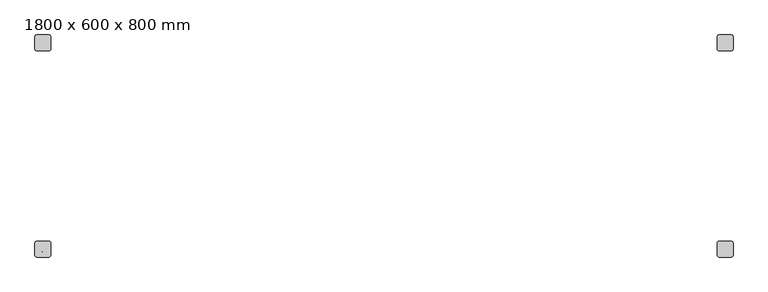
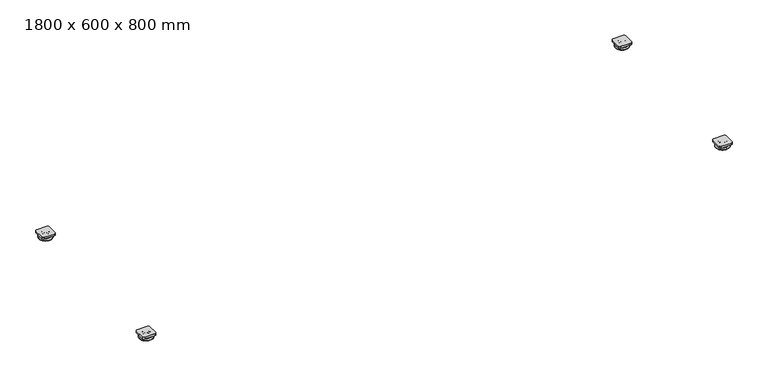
"""IFC4 building model written with IfcOpenShell, lengths in millimetres: furniture geometry, Table d'examen : 1800 x 600 x 800 mm."""

from ifc_helpers import new_model, si_unit, point, frame, frame_2d, origin, place, context, project, spatial, polyline, circle_curve, ellipse_curve, trimmed, segment, composite_curve, outline, extrude, source, transform, mapped, element, save
from ifc_brep_helpers import plane_surface, cylinder_surface, revolved_surface, advanced_brep


def furniture_1800_x_600_x_800_mm_032c7c21(model_context):
    return source(origin(), model_context, "Body", "SolidModel", [
        extrude(outline(composite_curve([segment(trimmed(circle_curve(frame_2d((919.7003264, -55.0)), 5.0), [point((924.7003264, -55.0))], [point((919.7003264, -60.0))], False, "CARTESIAN"), True, "CONTINUOUS"), segment(polyline([(919.7003264, -60.0), (889.7003264, -60.0)]), True, "CONTINUOUS"), segment(trimmed(circle_curve(frame_2d((889.7003264, -55.0)), 5.0), [point((889.7003264, -60.0))], [point((884.7003264, -55.0))], False, "CARTESIAN"), True, "CONTINUOUS"), segment(polyline([(884.7003264, -55.0), (884.7003264, -25.0)]), True, "CONTINUOUS"), segment(trimmed(circle_curve(frame_2d((889.7003264, -25.0)), 5.0), [point((884.7003264, -25.0))], [point((889.7003264, -20.0))], False, "CARTESIAN"), True, "CONTINUOUS"), segment(polyline([(889.7003264, -20.0), (919.7003264, -20.0)]), True, "CONTINUOUS"), segment(trimmed(circle_curve(frame_2d((919.7003264, -25.0)), 5.0), [point((919.7003264, -20.0))], [point((924.7003264, -25.0))], False, "CARTESIAN"), True, "CONTINUOUS"), segment(polyline([(924.7003264, -25.0), (924.7003264, -55.0)]), True, "CONTINUOUS")], self_intersect=False)), frame((0.0, 0.0, 10.0), z_axis=(0.0, 0.0, 1.0), x_axis=(1.0, 0.0, 0.0)), (0.0, 0.0, 1.0), 5.0),
        advanced_brep(
        [(897.1873054, -40.0, 10.0), (912.2133474, -40.0, 10.0), (904.7003264, -40.0, 10.0), (897.1873054, -40.0, 8.8913128), (912.2133474, -40.0, 8.8913128), (895.5234516, -40.0, 6.908409), (913.8772013, -40.0, 6.908409), (887.5885787, -40.0, 5.5092768), (921.8120742, -40.0, 5.5092768), (884.7003264, -40.0, 2.0671918), (924.7003264, -40.0, 2.0671918), (884.7003264, -40.0, 0.0), (924.7003264, -40.0, 0.0), (904.7003264, -40.0, 0.0)],
        [
            (0, 1, circle_curve(frame((904.7003264, -40.0, 10.0), z_axis=(0.0, 0.0, 1.0), x_axis=(1.0, 0.0, 0.0)), 7.513021)),
            (1, 2),
            (2, 0),
            (1, 0, circle_curve(frame((904.7003264, -40.0, 10.0), z_axis=(0.0, 0.0, 1.0), x_axis=(1.0, 0.0, 0.0)), 7.513021)),
            (3, 4, circle_curve(frame((904.7003264, -40.0, 8.8913128), z_axis=(0.0, 0.0, 1.0), x_axis=(1.0, 0.0, 0.0)), 7.513021)),
            (4, 1),
            (0, 3),
            (4, 3, circle_curve(frame((904.7003264, -40.0, 8.8913128), z_axis=(0.0, 0.0, 1.0), x_axis=(1.0, 0.0, 0.0)), 7.513021)),
            (5, 6, circle_curve(frame((904.7003264, -40.0, 6.908409), z_axis=(0.0, 0.0, 1.0), x_axis=(1.0, 0.0, 0.0)), 9.1768748)),
            (6, 4, circle_curve(frame((914.2268407, -40.0, 8.8913128), z_axis=(0.0, 1.0, 0.0), x_axis=(-1.0, 0.0, 0.0)), 2.0134933)),
            (3, 5, circle_curve(frame((895.1738122, -40.0, 8.8913128), z_axis=(0.0, 1.0, 0.0), x_axis=(1.0, 0.0, 0.0)), 2.0134933)),
            (6, 5, circle_curve(frame((904.7003264, -40.0, 6.908409), z_axis=(0.0, 0.0, 1.0), x_axis=(1.0, 0.0, 0.0)), 9.1768748)),
            (7, 8, circle_curve(frame((904.7003264, -40.0, 5.5092768), z_axis=(0.0, 0.0, 1.0), x_axis=(1.0, 0.0, 0.0)), 17.1117477)),
            (8, 6),
            (5, 7),
            (8, 7, circle_curve(frame((904.7003264, -40.0, 5.5092768), z_axis=(0.0, 0.0, 1.0), x_axis=(1.0, 0.0, 0.0)), 17.1117477)),
            (9, 10, circle_curve(frame((904.7003264, -40.0, 2.0671918), z_axis=(0.0, 0.0, 1.0), x_axis=(1.0, 0.0, 0.0)), 20.0)),
            (10, 8, circle_curve(frame((921.2051417, -40.0, 2.0671918), z_axis=(0.0, -1.0, 0.0), x_axis=(-1.0, 0.0, 0.0)), 3.4951847)),
            (7, 9, circle_curve(frame((888.1955112, -40.0, 2.0671918), z_axis=(0.0, -1.0, 0.0), x_axis=(1.0, 0.0, 0.0)), 3.4951847)),
            (10, 9, circle_curve(frame((904.7003264, -40.0, 2.0671918), z_axis=(0.0, 0.0, 1.0), x_axis=(1.0, 0.0, 0.0)), 20.0)),
            (11, 12, circle_curve(frame((904.7003264, -40.0, 0.0), z_axis=(0.0, 0.0, 1.0), x_axis=(1.0, 0.0, 0.0)), 20.0)),
            (12, 10),
            (9, 11),
            (12, 11, circle_curve(frame((904.7003264, -40.0, 0.0), z_axis=(0.0, 0.0, 1.0), x_axis=(1.0, 0.0, 0.0)), 20.0)),
            (13, 12),
            (11, 13),
        ],
        [
            plane_surface(frame((904.7003264, -40.0, 10.0), z_axis=(0.0, 0.0, 1.0), x_axis=(1.0, 0.0, 0.0))),
            cylinder_surface(frame((904.7003264, -40.0, 21.1489635), z_axis=(0.0, 0.0, -1.0), x_axis=(1.0, 0.0, 0.0)), 7.513021),
            revolved_surface(trimmed(ellipse_curve(frame((914.2268407, -40.0, 8.8913128), z_axis=(0.0, -1.0, 0.0), x_axis=(-1.0, 0.0, 0.0)), 2.0134933, 2.0134933), [point((912.2133474, -40.0, 8.8913128))], [point((913.8772013, -40.0, 6.908409))], True, "CARTESIAN"), (904.7003264, -40.0, 21.1489635), (0.0, 0.0, -1.0)),
            revolved_surface(polyline([(913.8772013, -40.0, 6.908409), (921.8120742, -40.0, 5.5092768)]), (904.7003264, -40.0, 21.1489635), (0.0, 0.0, -1.0)),
            revolved_surface(trimmed(ellipse_curve(frame((921.2051417, -40.0, 2.0671918), z_axis=(0.0, 1.0, 0.0), x_axis=(-1.0, 0.0, 0.0)), 3.4951847, 3.4951847), [point((921.8120742, -40.0, 5.5092768))], [point((924.7003264, -40.0, 2.0671918))], True, "CARTESIAN"), (904.7003264, -40.0, 21.1489635), (0.0, 0.0, -1.0)),
            cylinder_surface(frame((904.7003264, -40.0, 21.1489635), z_axis=(0.0, 0.0, -1.0), x_axis=(1.0, 0.0, 0.0)), 20.0),
            plane_surface(frame((904.7003264, -40.0, 0.0), z_axis=(0.0, 0.0, -1.0), x_axis=(1.0, 0.0, 0.0))),
        ],
        [
            (0, [[1, 2, 3]]),
            (0, [[4, -3, -2]]),
            (1, [[5, 6, -1, 7]]),
            (1, [[8, -7, -4, -6]]),
            (2, [[9, 10, -5, 11]]),
            (2, [[12, -11, -8, -10]]),
            (3, [[13, 14, -9, 15]]),
            (3, [[16, -15, -12, -14]]),
            (4, [[17, 18, -13, 19]]),
            (4, [[20, -19, -16, -18]]),
            (5, [[21, 22, -17, 23]]),
            (5, [[24, -23, -20, -22]]),
            (6, [[25, -21, 26]]),
            (6, [[-26, -24, -25]]),
        ],
    ),
        extrude(outline(composite_curve([segment(trimmed(circle_curve(frame_2d((889.7003264, -575.0)), 5.0), [point((889.7003264, -580.0))], [point((884.7003264, -575.0))], False, "CARTESIAN"), True, "CONTINUOUS"), segment(polyline([(884.7003264, -575.0), (884.7003264, -545.0)]), True, "CONTINUOUS"), segment(trimmed(circle_curve(frame_2d((889.7003264, -545.0)), 5.0), [point((884.7003264, -545.0))], [point((889.7003264, -540.0))], False, "CARTESIAN"), True, "CONTINUOUS"), segment(polyline([(889.7003264, -540.0), (919.7003264, -540.0)]), True, "CONTINUOUS"), segment(trimmed(circle_curve(frame_2d((919.7003264, -545.0)), 5.0), [point((919.7003264, -540.0))], [point((924.7003264, -545.0))], False, "CARTESIAN"), True, "CONTINUOUS"), segment(polyline([(924.7003264, -545.0), (924.7003264, -575.0)]), True, "CONTINUOUS"), segment(trimmed(circle_curve(frame_2d((919.7003264, -575.0)), 5.0), [point((924.7003264, -575.0))], [point((919.7003264, -580.0))], False, "CARTESIAN"), True, "CONTINUOUS"), segment(polyline([(919.7003264, -580.0), (889.7003264, -580.0)]), True, "CONTINUOUS")], self_intersect=False)), frame((0.0, 0.0, 10.0), z_axis=(0.0, 0.0, 1.0), x_axis=(1.0, 0.0, 0.0)), (0.0, 0.0, 1.0), 5.0),
        advanced_brep(
        [(904.7003264, -552.486979, 10.0), (904.7003264, -567.513021, 10.0), (904.7003264, -560.0, 10.0), (904.7003264, -552.486979, 8.8913128), (904.7003264, -567.513021, 8.8913128), (904.7003264, -550.8231252, 6.908409), (904.7003264, -569.1768748, 6.908409), (904.7003264, -542.8882523, 5.5092768), (904.7003264, -577.1117477, 5.5092768), (904.7003264, -540.0, 2.0671918), (904.7003264, -580.0, 2.0671918), (904.7003264, -540.0, 0.0), (904.7003264, -580.0, 0.0), (904.7003264, -560.0, 0.0)],
        [
            (0, 1, circle_curve(frame((904.7003264, -560.0, 10.0), z_axis=(0.0, 0.0, 1.0), x_axis=(0.0, -1.0, 0.0)), 7.513021)),
            (1, 2),
            (2, 0),
            (1, 0, circle_curve(frame((904.7003264, -560.0, 10.0), z_axis=(0.0, 0.0, 1.0), x_axis=(0.0, -1.0, 0.0)), 7.513021)),
            (3, 4, circle_curve(frame((904.7003264, -560.0, 8.8913128), z_axis=(0.0, 0.0, 1.0), x_axis=(0.0, -1.0, 0.0)), 7.513021)),
            (4, 1),
            (0, 3),
            (4, 3, circle_curve(frame((904.7003264, -560.0, 8.8913128), z_axis=(0.0, 0.0, 1.0), x_axis=(0.0, -1.0, 0.0)), 7.513021)),
            (5, 6, circle_curve(frame((904.7003264, -560.0, 6.908409), z_axis=(0.0, 0.0, 1.0), x_axis=(0.0, -1.0, 0.0)), 9.1768748)),
            (6, 4, circle_curve(frame((904.7003264, -569.5265143, 8.8913128), z_axis=(1.0, 0.0, 0.0), x_axis=(0.0, 1.0, 0.0)), 2.0134933)),
            (3, 5, circle_curve(frame((904.7003264, -550.4734857, 8.8913128), z_axis=(1.0, 0.0, 0.0), x_axis=(0.0, -1.0, 0.0)), 2.0134933)),
            (6, 5, circle_curve(frame((904.7003264, -560.0, 6.908409), z_axis=(0.0, 0.0, 1.0), x_axis=(0.0, -1.0, 0.0)), 9.1768748)),
            (7, 8, circle_curve(frame((904.7003264, -560.0, 5.5092768), z_axis=(0.0, 0.0, 1.0), x_axis=(0.0, -1.0, 0.0)), 17.1117477)),
            (8, 6),
            (5, 7),
            (8, 7, circle_curve(frame((904.7003264, -560.0, 5.5092768), z_axis=(0.0, 0.0, 1.0), x_axis=(0.0, -1.0, 0.0)), 17.1117477)),
            (9, 10, circle_curve(frame((904.7003264, -560.0, 2.0671918), z_axis=(0.0, 0.0, 1.0), x_axis=(0.0, -1.0, 0.0)), 20.0)),
            (10, 8, circle_curve(frame((904.7003264, -576.5048153, 2.0671918), z_axis=(-1.0, 0.0, 0.0), x_axis=(0.0, 1.0, 0.0)), 3.4951847)),
            (7, 9, circle_curve(frame((904.7003264, -543.4951847, 2.0671918), z_axis=(-1.0, 0.0, 0.0), x_axis=(0.0, -1.0, 0.0)), 3.4951847)),
            (10, 9, circle_curve(frame((904.7003264, -560.0, 2.0671918), z_axis=(0.0, 0.0, 1.0), x_axis=(0.0, -1.0, 0.0)), 20.0)),
            (11, 12, circle_curve(frame((904.7003264, -560.0, 0.0), z_axis=(0.0, 0.0, 1.0), x_axis=(0.0, -1.0, 0.0)), 20.0)),
            (12, 10),
            (9, 11),
            (12, 11, circle_curve(frame((904.7003264, -560.0, 0.0), z_axis=(0.0, 0.0, 1.0), x_axis=(0.0, -1.0, 0.0)), 20.0)),
            (13, 12),
            (11, 13),
        ],
        [
            plane_surface(frame((904.7003264, -560.0, 10.0), z_axis=(0.0, 0.0, 1.0), x_axis=(0.0, -1.0, 0.0))),
            cylinder_surface(frame((904.7003264, -560.0, 21.1489635), z_axis=(0.0, 0.0, -1.0), x_axis=(0.0, -1.0, 0.0)), 7.513021),
            revolved_surface(trimmed(ellipse_curve(frame((904.7003264, -569.5265143, 8.8913128), z_axis=(-1.0, 0.0, 0.0), x_axis=(0.0, 1.0, 0.0)), 2.0134933, 2.0134933), [point((904.7003264, -567.513021, 8.8913128))], [point((904.7003264, -569.1768748, 6.908409))], True, "CARTESIAN"), (904.7003264, -560.0, 21.1489635), (0.0, 0.0, -1.0)),
            revolved_surface(polyline([(904.7003264, -569.1768748, 6.908409), (904.7003264, -577.1117477, 5.5092768)]), (904.7003264, -560.0, 21.1489635), (0.0, 0.0, -1.0)),
            revolved_surface(trimmed(ellipse_curve(frame((904.7003264, -576.5048153, 2.0671918), z_axis=(1.0, 0.0, 0.0), x_axis=(0.0, 1.0, 0.0)), 3.4951847, 3.4951847), [point((904.7003264, -577.1117477, 5.5092768))], [point((904.7003264, -580.0, 2.0671918))], True, "CARTESIAN"), (904.7003264, -560.0, 21.1489635), (0.0, 0.0, -1.0)),
            cylinder_surface(frame((904.7003264, -560.0, 21.1489635), z_axis=(0.0, 0.0, -1.0), x_axis=(0.0, -1.0, 0.0)), 20.0),
            plane_surface(frame((904.7003264, -560.0, 0.0), z_axis=(0.0, 0.0, -1.0), x_axis=(0.0, -1.0, 0.0))),
        ],
        [
            (0, [[1, 2, 3]]),
            (0, [[4, -3, -2]]),
            (1, [[5, 6, -1, 7]]),
            (1, [[8, -7, -4, -6]]),
            (2, [[9, 10, -5, 11]]),
            (2, [[12, -11, -8, -10]]),
            (3, [[13, 14, -9, 15]]),
            (3, [[16, -15, -12, -14]]),
            (4, [[17, 18, -13, 19]]),
            (4, [[20, -19, -16, -18]]),
            (5, [[21, 22, -17, 23]]),
            (5, [[24, -23, -20, -22]]),
            (6, [[25, -21, 26]]),
            (6, [[-26, -24, -25]]),
        ],
    ),
        extrude(outline(composite_curve([segment(trimmed(circle_curve(frame_2d((-830.2996736, -545.0)), 5.0), [point((-835.2996736, -545.0))], [point((-830.2996736, -540.0))], False, "CARTESIAN"), True, "CONTINUOUS"), segment(polyline([(-830.2996736, -540.0), (-800.2996736, -540.0)]), True, "CONTINUOUS"), segment(trimmed(circle_curve(frame_2d((-800.2996736, -545.0)), 5.0), [point((-800.2996736, -540.0))], [point((-795.2996736, -545.0))], False, "CARTESIAN"), True, "CONTINUOUS"), segment(polyline([(-795.2996736, -545.0), (-795.2996736, -575.0)]), True, "CONTINUOUS"), segment(trimmed(circle_curve(frame_2d((-800.2996736, -575.0)), 5.0), [point((-795.2996736, -575.0))], [point((-800.2996736, -580.0))], False, "CARTESIAN"), True, "CONTINUOUS"), segment(polyline([(-800.2996736, -580.0), (-830.2996736, -580.0)]), True, "CONTINUOUS"), segment(trimmed(circle_curve(frame_2d((-830.2996736, -575.0)), 5.0), [point((-830.2996736, -580.0))], [point((-835.2996736, -575.0))], False, "CARTESIAN"), True, "CONTINUOUS"), segment(polyline([(-835.2996736, -575.0), (-835.2996736, -545.0)]), True, "CONTINUOUS")], self_intersect=False)), frame((0.0, 0.0, 10.0), z_axis=(0.0, 0.0, 1.0), x_axis=(1.0, 0.0, 0.0)), (0.0, 0.0, 1.0), 5.0),
        advanced_brep(
        [(-807.7866526, -560.0, 10.0), (-822.8126946, -560.0, 10.0), (-815.2996736, -560.0, 10.0), (-807.7866526, -560.0, 8.8913128), (-822.8126946, -560.0, 8.8913128), (-806.1227987, -560.0, 6.908409), (-824.4765484, -560.0, 6.908409), (-798.1879258, -560.0, 5.5092768), (-832.4114213, -560.0, 5.5092768), (-795.2996736, -560.0, 2.0671918), (-835.2996736, -560.0, 2.0671918), (-795.2996736, -560.0, 0.0), (-835.2996736, -560.0, 0.0), (-815.2996736, -560.0, 0.0)],
        [
            (0, 1, circle_curve(frame((-815.2996736, -560.0, 10.0), z_axis=(0.0, 0.0, 1.0), x_axis=(-1.0, 0.0, 0.0)), 7.513021)),
            (1, 2),
            (2, 0),
            (1, 0, circle_curve(frame((-815.2996736, -560.0, 10.0), z_axis=(0.0, 0.0, 1.0), x_axis=(-1.0, 0.0, 0.0)), 7.513021)),
            (3, 4, circle_curve(frame((-815.2996736, -560.0, 8.8913128), z_axis=(0.0, 0.0, 1.0), x_axis=(-1.0, 0.0, 0.0)), 7.513021)),
            (4, 1),
            (0, 3),
            (4, 3, circle_curve(frame((-815.2996736, -560.0, 8.8913128), z_axis=(0.0, 0.0, 1.0), x_axis=(-1.0, 0.0, 0.0)), 7.513021)),
            (5, 6, circle_curve(frame((-815.2996736, -560.0, 6.908409), z_axis=(0.0, 0.0, 1.0), x_axis=(-1.0, 0.0, 0.0)), 9.1768748)),
            (6, 4, circle_curve(frame((-824.8261878, -560.0, 8.8913128), z_axis=(0.0, -1.0, 0.0), x_axis=(1.0, 0.0, 0.0)), 2.0134933)),
            (3, 5, circle_curve(frame((-805.7731593, -560.0, 8.8913128), z_axis=(0.0, -1.0, 0.0), x_axis=(-1.0, 0.0, 0.0)), 2.0134933)),
            (6, 5, circle_curve(frame((-815.2996736, -560.0, 6.908409), z_axis=(0.0, 0.0, 1.0), x_axis=(-1.0, 0.0, 0.0)), 9.1768748)),
            (7, 8, circle_curve(frame((-815.2996736, -560.0, 5.5092768), z_axis=(0.0, 0.0, 1.0), x_axis=(-1.0, 0.0, 0.0)), 17.1117477)),
            (8, 6),
            (5, 7),
            (8, 7, circle_curve(frame((-815.2996736, -560.0, 5.5092768), z_axis=(0.0, 0.0, 1.0), x_axis=(-1.0, 0.0, 0.0)), 17.1117477)),
            (9, 10, circle_curve(frame((-815.2996736, -560.0, 2.0671918), z_axis=(0.0, 0.0, 1.0), x_axis=(-1.0, 0.0, 0.0)), 20.0)),
            (10, 8, circle_curve(frame((-831.8044888, -560.0, 2.0671918), z_axis=(0.0, 1.0, 0.0), x_axis=(1.0, 0.0, 0.0)), 3.4951847)),
            (7, 9, circle_curve(frame((-798.7948583, -560.0, 2.0671918), z_axis=(0.0, 1.0, 0.0), x_axis=(-1.0, 0.0, 0.0)), 3.4951847)),
            (10, 9, circle_curve(frame((-815.2996736, -560.0, 2.0671918), z_axis=(0.0, 0.0, 1.0), x_axis=(-1.0, 0.0, 0.0)), 20.0)),
            (11, 12, circle_curve(frame((-815.2996736, -560.0, 0.0), z_axis=(0.0, 0.0, 1.0), x_axis=(-1.0, 0.0, 0.0)), 20.0)),
            (12, 10),
            (9, 11),
            (12, 11, circle_curve(frame((-815.2996736, -560.0, 0.0), z_axis=(0.0, 0.0, 1.0), x_axis=(-1.0, 0.0, 0.0)), 20.0)),
            (13, 12),
            (11, 13),
        ],
        [
            plane_surface(frame((-815.2996736, -560.0, 10.0), z_axis=(0.0, 0.0, 1.0), x_axis=(-1.0, 0.0, 0.0))),
            cylinder_surface(frame((-815.2996736, -560.0, 21.1489635), z_axis=(0.0, 0.0, -1.0), x_axis=(-1.0, 0.0, 0.0)), 7.513021),
            revolved_surface(trimmed(ellipse_curve(frame((-824.8261878, -560.0, 8.8913128), z_axis=(0.0, 1.0, 0.0), x_axis=(1.0, 0.0, 0.0)), 2.0134933, 2.0134933), [point((-822.8126946, -560.0, 8.8913128))], [point((-824.4765484, -560.0, 6.908409))], True, "CARTESIAN"), (-815.2996736, -560.0, 21.1489635), (0.0, 0.0, -1.0)),
            revolved_surface(polyline([(-824.4765484, -560.0, 6.908409), (-832.4114213, -560.0, 5.5092768)]), (-815.2996736, -560.0, 21.1489635), (0.0, 0.0, -1.0)),
            revolved_surface(trimmed(ellipse_curve(frame((-831.8044888, -560.0, 2.0671918), z_axis=(0.0, -1.0, 0.0), x_axis=(1.0, 0.0, 0.0)), 3.4951847, 3.4951847), [point((-832.4114213, -560.0, 5.5092768))], [point((-835.2996736, -560.0, 2.0671918))], True, "CARTESIAN"), (-815.2996736, -560.0, 21.1489635), (0.0, 0.0, -1.0)),
            cylinder_surface(frame((-815.2996736, -560.0, 21.1489635), z_axis=(0.0, 0.0, -1.0), x_axis=(-1.0, 0.0, 0.0)), 20.0),
            plane_surface(frame((-815.2996736, -560.0, 0.0), z_axis=(0.0, 0.0, -1.0), x_axis=(-1.0, 0.0, 0.0))),
        ],
        [
            (0, [[1, 2, 3]]),
            (0, [[4, -3, -2]]),
            (1, [[5, 6, -1, 7]]),
            (1, [[8, -7, -4, -6]]),
            (2, [[9, 10, -5, 11]]),
            (2, [[12, -11, -8, -10]]),
            (3, [[13, 14, -9, 15]]),
            (3, [[16, -15, -12, -14]]),
            (4, [[17, 18, -13, 19]]),
            (4, [[20, -19, -16, -18]]),
            (5, [[21, 22, -17, 23]]),
            (5, [[24, -23, -20, -22]]),
            (6, [[25, -21, 26]]),
            (6, [[-26, -24, -25]]),
        ],
    ),
        extrude(outline(composite_curve([segment(trimmed(circle_curve(frame_2d((-800.2996736, -55.0)), 5.0), [point((-795.2996736, -55.0))], [point((-800.2996736, -60.0))], False, "CARTESIAN"), True, "CONTINUOUS"), segment(polyline([(-800.2996736, -60.0), (-830.2996736, -60.0)]), True, "CONTINUOUS"), segment(trimmed(circle_curve(frame_2d((-830.2996736, -55.0)), 5.0), [point((-830.2996736, -60.0))], [point((-835.2996736, -55.0))], False, "CARTESIAN"), True, "CONTINUOUS"), segment(polyline([(-835.2996736, -55.0), (-835.2996736, -25.0)]), True, "CONTINUOUS"), segment(trimmed(circle_curve(frame_2d((-830.2996736, -25.0)), 5.0), [point((-835.2996736, -25.0))], [point((-830.2996736, -20.0))], False, "CARTESIAN"), True, "CONTINUOUS"), segment(polyline([(-830.2996736, -20.0), (-800.2996736, -20.0)]), True, "CONTINUOUS"), segment(trimmed(circle_curve(frame_2d((-800.2996736, -25.0)), 5.0), [point((-800.2996736, -20.0))], [point((-795.2996736, -25.0))], False, "CARTESIAN"), True, "CONTINUOUS"), segment(polyline([(-795.2996736, -25.0), (-795.2996736, -55.0)]), True, "CONTINUOUS")], self_intersect=False)), frame((0.0, 0.0, 10.0), z_axis=(0.0, 0.0, 1.0), x_axis=(1.0, 0.0, 0.0)), (0.0, 0.0, 1.0), 5.0),
        advanced_brep(
        [(-822.8126946, -40.0, 10.0), (-807.7866526, -40.0, 10.0), (-815.2996736, -40.0, 10.0), (-822.8126946, -40.0, 8.8913128), (-807.7866526, -40.0, 8.8913128), (-824.4765484, -40.0, 6.908409), (-806.1227987, -40.0, 6.908409), (-832.4114213, -40.0, 5.5092768), (-798.1879258, -40.0, 5.5092768), (-835.2996736, -40.0, 2.0671918), (-795.2996736, -40.0, 2.0671918), (-835.2996736, -40.0, 0.0), (-795.2996736, -40.0, 0.0), (-815.2996736, -40.0, 0.0)],
        [
            (0, 1, circle_curve(frame((-815.2996736, -40.0, 10.0), z_axis=(0.0, 0.0, 1.0), x_axis=(1.0, 0.0, 0.0)), 7.513021)),
            (1, 2),
            (2, 0),
            (1, 0, circle_curve(frame((-815.2996736, -40.0, 10.0), z_axis=(0.0, 0.0, 1.0), x_axis=(1.0, 0.0, 0.0)), 7.513021)),
            (3, 4, circle_curve(frame((-815.2996736, -40.0, 8.8913128), z_axis=(0.0, 0.0, 1.0), x_axis=(1.0, 0.0, 0.0)), 7.513021)),
            (4, 1),
            (0, 3),
            (4, 3, circle_curve(frame((-815.2996736, -40.0, 8.8913128), z_axis=(0.0, 0.0, 1.0), x_axis=(1.0, 0.0, 0.0)), 7.513021)),
            (5, 6, circle_curve(frame((-815.2996736, -40.0, 6.908409), z_axis=(0.0, 0.0, 1.0), x_axis=(1.0, 0.0, 0.0)), 9.1768748)),
            (6, 4, circle_curve(frame((-805.7731593, -40.0, 8.8913128), z_axis=(0.0, 1.0, 0.0), x_axis=(-1.0, 0.0, 0.0)), 2.0134933)),
            (3, 5, circle_curve(frame((-824.8261878, -40.0, 8.8913128), z_axis=(0.0, 1.0, 0.0), x_axis=(1.0, 0.0, 0.0)), 2.0134933)),
            (6, 5, circle_curve(frame((-815.2996736, -40.0, 6.908409), z_axis=(0.0, 0.0, 1.0), x_axis=(1.0, 0.0, 0.0)), 9.1768748)),
            (7, 8, circle_curve(frame((-815.2996736, -40.0, 5.5092768), z_axis=(0.0, 0.0, 1.0), x_axis=(1.0, 0.0, 0.0)), 17.1117477)),
            (8, 6),
            (5, 7),
            (8, 7, circle_curve(frame((-815.2996736, -40.0, 5.5092768), z_axis=(0.0, 0.0, 1.0), x_axis=(1.0, 0.0, 0.0)), 17.1117477)),
            (9, 10, circle_curve(frame((-815.2996736, -40.0, 2.0671918), z_axis=(0.0, 0.0, 1.0), x_axis=(1.0, 0.0, 0.0)), 20.0)),
            (10, 8, circle_curve(frame((-798.7948583, -40.0, 2.0671918), z_axis=(0.0, -1.0, 0.0), x_axis=(-1.0, 0.0, 0.0)), 3.4951847)),
            (7, 9, circle_curve(frame((-831.8044888, -40.0, 2.0671918), z_axis=(0.0, -1.0, 0.0), x_axis=(1.0, 0.0, 0.0)), 3.4951847)),
            (10, 9, circle_curve(frame((-815.2996736, -40.0, 2.0671918), z_axis=(0.0, 0.0, 1.0), x_axis=(1.0, 0.0, 0.0)), 20.0)),
            (11, 12, circle_curve(frame((-815.2996736, -40.0, 0.0), z_axis=(0.0, 0.0, 1.0), x_axis=(1.0, 0.0, 0.0)), 20.0)),
            (12, 10),
            (9, 11),
            (12, 11, circle_curve(frame((-815.2996736, -40.0, 0.0), z_axis=(0.0, 0.0, 1.0), x_axis=(1.0, 0.0, 0.0)), 20.0)),
            (13, 12),
            (11, 13),
        ],
        [
            plane_surface(frame((-815.2996736, -40.0, 10.0), z_axis=(0.0, 0.0, 1.0), x_axis=(1.0, 0.0, 0.0))),
            cylinder_surface(frame((-815.2996736, -40.0, 21.1489635), z_axis=(0.0, 0.0, -1.0), x_axis=(1.0, 0.0, 0.0)), 7.513021),
            revolved_surface(trimmed(ellipse_curve(frame((-805.7731593, -40.0, 8.8913128), z_axis=(0.0, -1.0, 0.0), x_axis=(-1.0, 0.0, 0.0)), 2.0134933, 2.0134933), [point((-807.7866526, -40.0, 8.8913128))], [point((-806.1227987, -40.0, 6.908409))], True, "CARTESIAN"), (-815.2996736, -40.0, 21.1489635), (0.0, 0.0, -1.0)),
            revolved_surface(polyline([(-806.1227987, -40.0, 6.908409), (-798.1879258, -40.0, 5.5092768)]), (-815.2996736, -40.0, 21.1489635), (0.0, 0.0, -1.0)),
            revolved_surface(trimmed(ellipse_curve(frame((-798.7948583, -40.0, 2.0671918), z_axis=(0.0, 1.0, 0.0), x_axis=(-1.0, 0.0, 0.0)), 3.4951847, 3.4951847), [point((-798.1879258, -40.0, 5.5092768))], [point((-795.2996736, -40.0, 2.0671918))], True, "CARTESIAN"), (-815.2996736, -40.0, 21.1489635), (0.0, 0.0, -1.0)),
            cylinder_surface(frame((-815.2996736, -40.0, 21.1489635), z_axis=(0.0, 0.0, -1.0), x_axis=(1.0, 0.0, 0.0)), 20.0),
            plane_surface(frame((-815.2996736, -40.0, 0.0), z_axis=(0.0, 0.0, -1.0), x_axis=(1.0, 0.0, 0.0))),
        ],
        [
            (0, [[1, 2, 3]]),
            (0, [[4, -3, -2]]),
            (1, [[5, 6, -1, 7]]),
            (1, [[8, -7, -4, -6]]),
            (2, [[9, 10, -5, 11]]),
            (2, [[12, -11, -8, -10]]),
            (3, [[13, 14, -9, 15]]),
            (3, [[16, -15, -12, -14]]),
            (4, [[17, 18, -13, 19]]),
            (4, [[20, -19, -16, -18]]),
            (5, [[21, 22, -17, 23]]),
            (5, [[24, -23, -20, -22]]),
            (6, [[25, -21, 26]]),
            (6, [[-26, -24, -25]]),
        ],
    ),
    ])


if __name__ == "__main__":
    model = new_model("IFC4")
    model_context = context("Model", 3, world=origin())
    ifc_project = project(units=[si_unit("LENGTHUNIT", "METRE", prefix="MILLI")], contexts=[model_context])
    site = spatial("IfcSite", under=ifc_project)
    building = spatial("IfcBuilding", under=site)
    placement = place(None, origin())
    furniture_1800_x_600_x_800_mm_shape = furniture_1800_x_600_x_800_mm_032c7c21(model_context)
    element("IfcFurniture", 1, ObjectType="Table d'examen : 1800 x 600 x 800 mm", at=placement, inside=building, context=model_context, shape_type="MappedRepresentation", body=[
        mapped(furniture_1800_x_600_x_800_mm_shape, transform((0.0, 0.0, 0.0), x_axis=(1.0, 0.0, 0.0), y_axis=(0.0, 1.0, 0.0), z_axis=(0.0, 0.0, 1.0))),
    ])
    save(model, "model.ifc")
